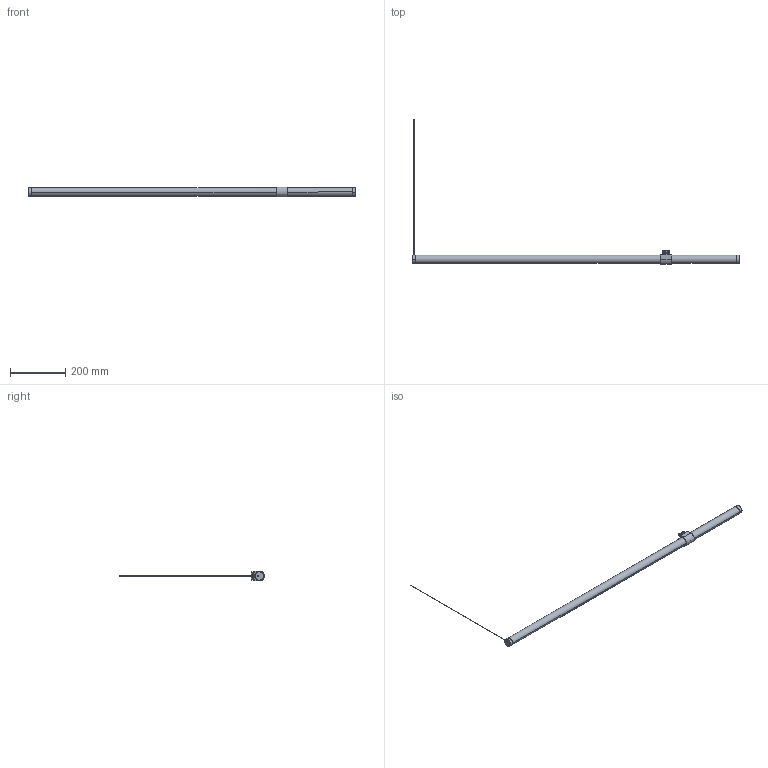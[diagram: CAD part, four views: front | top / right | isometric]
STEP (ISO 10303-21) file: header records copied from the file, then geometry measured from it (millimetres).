
FILE_DESCRIPTION (( 'STEP AP214' ), '1' );
FILE_NAME ('ACTUXCXXXXBI1XX.STEP', '2023-08-29T07:45:06', ( '' ), ( '' ), 'SwSTEP 2.0', 'SolidWorks 2023', '' );
FILE_SCHEMA (( 'AUTOMOTIVE_DESIGN' ));
Length unit declared in the file: millimetre
Products named in the file (6): WSCP2E0044-1400-01; WSCA01193000B2830B; WSVBPAR116225XX-00; WSCP2E0048-1400-00; WSCP2E0004-1400-02; ACTUXCXXXXBI1XX
Assembly tree (5 placements, depth 2):
  ACTUXCXXXXBI1XX
    WSVBPAR116225XX-00
    WSCP2E0004-1400-02
    WSCA01193000B2830B
    WSCP2E0044-1400-01
    WSCP2E0048-1400-00
Bounding box: 1185.9 x 523.81 x 36.2 mm (x, y, z)
Volume: 310180.1 mm3; surface area: 218999.1 mm2
Topology: 5 solids, 5 shells, 1705 faces, 4078 edges, 2190 vertices
Faces by surface type: cylinder 694, torus 380, bspline 279, plane 206, sphere 136, cone 10
Entity records: 53130 total; most frequent: CARTESIAN_POINT 16045, DIRECTION 8322, ORIENTED_EDGE 7600, EDGE_CURVE 3800, AXIS2_PLACEMENT_3D 3554, CIRCLE 2120, VERTEX_POINT 2106, EDGE_LOOP 1726
